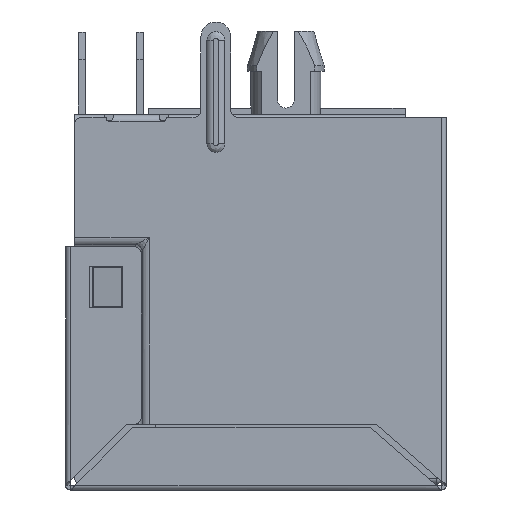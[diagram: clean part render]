
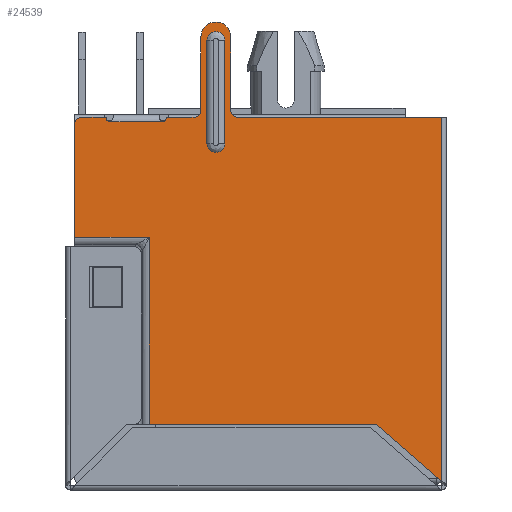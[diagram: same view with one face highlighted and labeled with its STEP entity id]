
A CAD part, front view. The second image highlights one B-rep face of the part: STEP entity #24539.
In plain terms, the highlighted planar face has unit normal (0, -1, 0).
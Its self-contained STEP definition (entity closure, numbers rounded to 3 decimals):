
#19435=DIRECTION('',(-1.,0.,0.));
#19436=VECTOR('',#19435,2.3);
#19437=CARTESIAN_POINT('',(3.83,-0.25,-3.95));
#19438=LINE('',#19437,#19436);
#19465=CARTESIAN_POINT('',(3.83,-0.25,-3.8));
#19466=DIRECTION('',(0.,1.,0.));
#19467=DIRECTION('',(1.,0.,0.));
#19468=AXIS2_PLACEMENT_3D('',#19465,#19466,#19467);
#19470=CARTESIAN_POINT('',(5.2,-0.25,-3.45));
#19471=DIRECTION('',(0.,1.,0.));
#19472=DIRECTION('',(1.,0.,0.));
#19473=AXIS2_PLACEMENT_3D('',#19470,#19471,#19472);
#19475=CARTESIAN_POINT('',(6.15,-0.25,-0.25));
#19476=DIRECTION('',(0.,-1.,0.));
#19477=DIRECTION('',(1.,0.,0.));
#19478=AXIS2_PLACEMENT_3D('',#19475,#19476,#19477);
#19480=CARTESIAN_POINT('',(7.1,-0.25,-3.45));
#19481=DIRECTION('',(0.,1.,0.));
#19482=DIRECTION('',(0.,0.,-1.));
#19483=AXIS2_PLACEMENT_3D('',#19480,#19481,#19482);
#19485=DIRECTION('',(0.752,0.,-0.659));
#19486=VECTOR('',#19485,3.772);
#19487=CARTESIAN_POINT('',(13.162,-0.25,-17.14));
#19488=LINE('',#19487,#19486);
#19489=CARTESIAN_POINT('',(0.3,-0.25,-4.05));
#19490=DIRECTION('',(0.,-1.,0.));
#19491=DIRECTION('',(0.,0.,1.));
#19492=AXIS2_PLACEMENT_3D('',#19489,#19490,#19491);
#19494=CARTESIAN_POINT('',(1.53,-0.25,-3.8));
#19495=DIRECTION('',(0.,1.,0.));
#19496=DIRECTION('',(0.,0.,-1.));
#19497=AXIS2_PLACEMENT_3D('',#19494,#19495,#19496);
#19499=CARTESIAN_POINT('',(6.15,-0.25,
-4.9));
#19500=DIRECTION('',(0.,1.,0.));
#19501=DIRECTION('',(1.,0.,0.));
#19502=AXIS2_PLACEMENT_3D('',#19499,#19500,#19501);
#19504=CARTESIAN_POINT('',(6.15,-0.25,-0.4));
#19505=DIRECTION('',(0.,1.,0.));
#19506=DIRECTION('',(-1.,0.,
0.));
#19507=AXIS2_PLACEMENT_3D('',#19504,#19505,#19506);
#19599=DIRECTION('',(0.,0.,1.));
#19600=VECTOR('',#19599,0.05);
#19601=CARTESIAN_POINT('',(3.98,-0.25,-3.8));
#19602=LINE('',#19601,#19600);
#19615=DIRECTION('',(1.,0.,0.));
#19616=VECTOR('',#19615,1.22);
#19617=CARTESIAN_POINT('',(3.98,-0.25,-3.75));
#19618=LINE('',#19617,#19616);
#19627=DIRECTION('',(0.,0.,1.));
#19628=VECTOR('',#19627,3.2);
#19629=CARTESIAN_POINT('',(5.5,-0.25,-3.45));
#19630=LINE('',#19629,#19628);
#19643=DIRECTION('',(0.,0.,-1.));
#19644=VECTOR('',#19643,3.2);
#19645=CARTESIAN_POINT('',(6.8,-0.25,-0.25));
#19646=LINE('',#19645,#19644);
#19663=DIRECTION('',(1.,0.,0.));
#19664=VECTOR('',#19663,8.9);
#19665=CARTESIAN_POINT('',(7.1,-0.25,-3.75));
#19666=LINE('',#19665,#19664);
#19696=DIRECTION('',(0.,0.,1.));
#19697=VECTOR('',#19696,15.875);
#19698=CARTESIAN_POINT('',(16.,-0.25,-19.625));
#19699=LINE('',#19698,#19697);
#19718=DIRECTION('',(-1.,0.,0.));
#19719=VECTOR('',#19718,9.914);
#19720=CARTESIAN_POINT('',(13.162,-0.25,-17.14));
#19721=LINE('',#19720,#19719);
#19754=DIRECTION('',(0.,0.,-1.));
#19755=VECTOR('',#19754,8.147);
#19756=CARTESIAN_POINT('',(3.247,-0.25,-8.993));
#19757=LINE('',#19756,#19755);
#19773=DIRECTION('',(1.,0.,0.));
#19774=VECTOR('',#19773,3.247);
#19775=CARTESIAN_POINT('',(0.,-0.25,-8.993));
#19776=LINE('',#19775,#19774);
#19882=DIRECTION('',(0.,0.,1.));
#19883=VECTOR('',#19882,4.943);
#19884=CARTESIAN_POINT('',(0.,-0.25,-8.993));
#19885=LINE('',#19884,#19883);
#20185=DIRECTION('',(1.,0.,0.));
#20186=VECTOR('',#20185,1.08);
#20187=CARTESIAN_POINT('',(0.3,-0.25,-3.75));
#20188=LINE('',#20187,#20186);
#20193=DIRECTION('',(0.,0.,-1.));
#20194=VECTOR('',#20193,0.05);
#20195=CARTESIAN_POINT('',(1.38,-0.25,-3.75));
#20196=LINE('',#20195,#20194);
#21524=DIRECTION('',(0.,0.,1.));
#21525=VECTOR('',#21524,4.5);
#21526=CARTESIAN_POINT('',(5.763,-0.25,
-4.9));
#21527=LINE('',#21526,#21525);
#21537=DIRECTION('',(0.,0.,-1.));
#21538=VECTOR('',#21537,4.5);
#21539=CARTESIAN_POINT('',(6.537,-0.25,
-0.4));
#21540=LINE('',#21539,#21538);
#22438=CARTESIAN_POINT('',(3.83,-0.25,-3.95));
#22439=CARTESIAN_POINT('',(1.53,-0.25,-3.95));
#22440=VERTEX_POINT('',#22438);
#22441=VERTEX_POINT('',#22439);
#22446=CARTESIAN_POINT('',(3.98,-0.25,-3.8));
#22447=VERTEX_POINT('',#22446);
#22448=CARTESIAN_POINT('',(3.98,-0.25,-3.75));
#22449=VERTEX_POINT('',#22448);
#22450=CARTESIAN_POINT('',(5.2,-0.25,-3.75));
#22451=VERTEX_POINT('',#22450);
#22452=CARTESIAN_POINT('',(5.5,-0.25,-3.45));
#22453=VERTEX_POINT('',#22452);
#22454=CARTESIAN_POINT('',(5.5,-0.25,-0.25));
#22455=VERTEX_POINT('',#22454);
#22456=CARTESIAN_POINT('',(6.8,-0.25,-0.25));
#22457=VERTEX_POINT('',#22456);
#22458=CARTESIAN_POINT('',(6.8,-0.25,-3.45));
#22459=VERTEX_POINT('',#22458);
#22460=CARTESIAN_POINT('',(7.1,-0.25,-3.75));
#22461=VERTEX_POINT('',#22460);
#22462=CARTESIAN_POINT('',(16.,-0.25,-3.75));
#22463=VERTEX_POINT('',#22462);
#22464=CARTESIAN_POINT('',(16.,-0.25,-19.625));
#22465=VERTEX_POINT('',#22464);
#22466=CARTESIAN_POINT('',(13.162,-0.25,-17.14));
#22467=VERTEX_POINT('',#22466);
#22468=CARTESIAN_POINT('',(3.247,-0.25,-17.14));
#22469=VERTEX_POINT('',#22468);
#22470=CARTESIAN_POINT('',(3.247,-0.25,-8.993));
#22471=VERTEX_POINT('',#22470);
#22472=CARTESIAN_POINT('',(0.,-0.25,-8.993));
#22473=VERTEX_POINT('',#22472);
#22474=CARTESIAN_POINT('',(0.,-0.25,-4.05));
#22475=VERTEX_POINT('',#22474);
#22476=CARTESIAN_POINT('',(0.3,-0.25,-3.75));
#22477=VERTEX_POINT('',#22476);
#22478=CARTESIAN_POINT('',(1.38,-0.25,-3.75));
#22479=VERTEX_POINT('',#22478);
#22480=CARTESIAN_POINT('',(1.38,-0.25,-3.8));
#22481=VERTEX_POINT('',#22480);
#22482=CARTESIAN_POINT('',(5.763,-0.25,
-4.9));
#22483=CARTESIAN_POINT('',(5.763,-0.25,
-0.4));
#22484=VERTEX_POINT('',#22482);
#22485=VERTEX_POINT('',#22483);
#22486=CARTESIAN_POINT('',(6.537,-0.25,
-4.9));
#22487=VERTEX_POINT('',#22486);
#22488=CARTESIAN_POINT('',(6.537,-0.25,
-0.4));
#22489=VERTEX_POINT('',#22488);
#24483=CARTESIAN_POINT('',(8.,-0.25,-9.612));
#24484=DIRECTION('',(0.,1.,0.));
#24485=DIRECTION('',(0.,0.,1.));
#24486=AXIS2_PLACEMENT_3D('',#24483,#24484,#24485);
#24487=PLANE('',#24486);
#24488=ORIENTED_EDGE('',*,*,#24469,.F.);
#24490=ORIENTED_EDGE('',*,*,#24489,.F.);
#24492=ORIENTED_EDGE('',*,*,#24491,.T.);
#24494=ORIENTED_EDGE('',*,*,#24493,.T.);
#24496=ORIENTED_EDGE('',*,*,#24495,.F.);
#24498=ORIENTED_EDGE('',*,*,#24497,.T.);
#24500=ORIENTED_EDGE('',*,*,#24499,.F.);
#24502=ORIENTED_EDGE('',*,*,#24501,.T.);
#24504=ORIENTED_EDGE('',*,*,#24503,.F.);
#24506=ORIENTED_EDGE('',*,*,#24505,.T.);
#24508=ORIENTED_EDGE('',*,*,#24507,.F.);
#24510=ORIENTED_EDGE('',*,*,#24509,.F.);
#24512=ORIENTED_EDGE('',*,*,#24511,.T.);
#24514=ORIENTED_EDGE('',*,*,#24513,.F.);
#24516=ORIENTED_EDGE('',*,*,#24515,.F.);
#24518=ORIENTED_EDGE('',*,*,#24517,.T.);
#24520=ORIENTED_EDGE('',*,*,#24519,.F.);
#24522=ORIENTED_EDGE('',*,*,#24521,.T.);
#24524=ORIENTED_EDGE('',*,*,#24523,.T.);
#24526=ORIENTED_EDGE('',*,*,#24525,.F.);
#24527=EDGE_LOOP('',(#24488,#24490,#24492,#24494,#24496,#24498,#24500,#24502,
#24504,#24506,#24508,#24510,#24512,#24514,#24516,#24518,#24520,#24522,#24524,
#24526));
#24528=FACE_OUTER_BOUND('',#24527,.F.);
#24530=ORIENTED_EDGE('',*,*,#24529,.F.);
#24532=ORIENTED_EDGE('',*,*,#24531,.F.);
#24534=ORIENTED_EDGE('',*,*,#24533,.F.);
#24536=ORIENTED_EDGE('',*,*,#24535,.F.);
#24537=EDGE_LOOP('',(#24530,#24532,#24534,#24536));
#24538=FACE_BOUND('',#24537,.F.);
#24539=ADVANCED_FACE('',(#24528,#24538),#24487,.F.);
#19469=CIRCLE('',#19468,0.15);
#19474=CIRCLE('',#19473,0.3);
#19479=CIRCLE('',#19478,0.65);
#19484=CIRCLE('',#19483,0.3);
#19493=CIRCLE('',#19492,0.3);
#19498=CIRCLE('',#19497,0.15);
#19503=CIRCLE('',#19502,0.387);
#19508=CIRCLE('',#19507,0.387);
#24469=EDGE_CURVE('',#22440,#22441,#19438,.T.);
#24489=EDGE_CURVE('',#22447,#22440,#19469,.T.);
#24491=EDGE_CURVE('',#22447,#22449,#19602,.T.);
#24493=EDGE_CURVE('',#22449,#22451,#19618,.T.);
#24495=EDGE_CURVE('',#22453,#22451,#19474,.T.);
#24497=EDGE_CURVE('',#22453,#22455,#19630,.T.);
#24499=EDGE_CURVE('',#22457,#22455,#19479,.T.);
#24501=EDGE_CURVE('',#22457,#22459,#19646,.T.);
#24503=EDGE_CURVE('',#22461,#22459,#19484,.T.);
#24505=EDGE_CURVE('',#22461,#22463,#19666,.T.);
#24507=EDGE_CURVE('',#22465,#22463,#19699,.T.);
#24509=EDGE_CURVE('',#22467,#22465,#19488,.T.);
#24511=EDGE_CURVE('',#22467,#22469,#19721,.T.);
#24513=EDGE_CURVE('',#22471,#22469,#19757,.T.);
#24515=EDGE_CURVE('',#22473,#22471,#19776,.T.);
#24517=EDGE_CURVE('',#22473,#22475,#19885,.T.);
#24519=EDGE_CURVE('',#22477,#22475,#19493,.T.);
#24521=EDGE_CURVE('',#22477,#22479,#20188,.T.);
#24523=EDGE_CURVE('',#22479,#22481,#20196,.T.);
#24525=EDGE_CURVE('',#22441,#22481,#19498,.T.);
#24529=EDGE_CURVE('',#22484,#22485,#21527,.T.);
#24531=EDGE_CURVE('',#22487,#22484,#19503,.T.);
#24533=EDGE_CURVE('',#22489,#22487,#21540,.T.);
#24535=EDGE_CURVE('',#22485,#22489,#19508,.T.);
